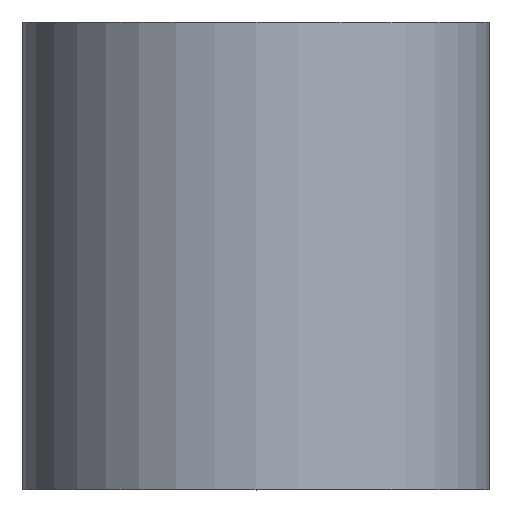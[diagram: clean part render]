
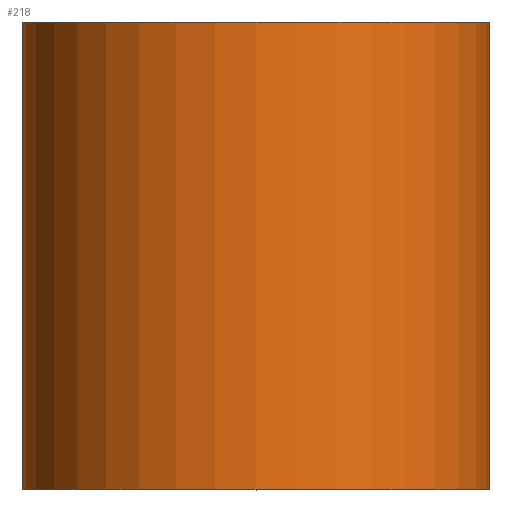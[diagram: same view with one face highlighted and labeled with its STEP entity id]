
A CAD part, top view. The second image highlights one B-rep face of the part: STEP entity #218.
In plain terms, the highlighted cylindrical face has radius 4 mm (diameter 8 mm), a partial arc.
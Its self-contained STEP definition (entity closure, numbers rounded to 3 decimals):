
#14 = LINE ( 'NONE', #56, #21 ) ;
#21 = VECTOR ( 'NONE', #271, 1000. ) ;
#33 = EDGE_CURVE ( 'NONE', #168, #203, #252, .T. ) ;
#46 = VERTEX_POINT ( 'NONE', #211 ) ;
#50 = DIRECTION ( 'NONE',  ( 0., 1., 0. ) ) ;
#56 = CARTESIAN_POINT ( 'NONE',  ( 4., 0., 0. ) ) ;
#57 = DIRECTION ( 'NONE',  ( -1., 0., 0. ) ) ;
#72 = DIRECTION ( 'NONE',  ( -1., 0., 0. ) ) ;
#74 = CYLINDRICAL_SURFACE ( 'NONE', #220, 4. ) ;
#85 = AXIS2_PLACEMENT_3D ( 'NONE', #146, #50, #72 ) ;
#99 = CIRCLE ( 'NONE', #204, 4. ) ;
#102 = CARTESIAN_POINT ( 'NONE',  ( 4., 0., 0. ) ) ;
#106 = DIRECTION ( 'NONE',  ( 0., 1., 0. ) ) ;
#109 = DIRECTION ( 'NONE',  ( 0., 1., 0. ) ) ;
#134 = EDGE_CURVE ( 'NONE', #168, #155, #298, .T. ) ;
#140 = FACE_OUTER_BOUND ( 'NONE', #229, .T. ) ;
#141 = DIRECTION ( 'NONE',  ( 0., 1., 0. ) ) ;
#146 = CARTESIAN_POINT ( 'NONE',  ( 0., 0., 0. ) ) ;
#155 = VERTEX_POINT ( 'NONE', #102 ) ;
#168 = VERTEX_POINT ( 'NONE', #260 ) ;
#172 = DIRECTION ( 'NONE',  ( -1., 0., 0. ) ) ;
#173 = CARTESIAN_POINT ( 'NONE',  ( 0., 0., 0. ) ) ;
#179 = VECTOR ( 'NONE', #141, 1000. ) ;
#182 = ORIENTED_EDGE ( 'NONE', *, *, #258, .F. ) ;
#195 = CARTESIAN_POINT ( 'NONE',  ( -4., 8., 0. ) ) ;
#198 = CARTESIAN_POINT ( 'NONE',  ( 0., 8., 0. ) ) ;
#203 = VERTEX_POINT ( 'NONE', #195 ) ;
#204 = AXIS2_PLACEMENT_3D ( 'NONE', #198, #106, #172 ) ;
#206 = EDGE_CURVE ( 'NONE', #155, #46, #14, .T. ) ;
#211 = CARTESIAN_POINT ( 'NONE',  ( 4., 8., 0. ) ) ;
#218 = ADVANCED_FACE ( 'NONE', ( #140 ), #74, .T. ) ;
#220 = AXIS2_PLACEMENT_3D ( 'NONE', #173, #109, #57 ) ;
#226 = ORIENTED_EDGE ( 'NONE', *, *, #206, .T. ) ;
#229 = EDGE_LOOP ( 'NONE', ( #230, #226, #182, #251 ) ) ;
#230 = ORIENTED_EDGE ( 'NONE', *, *, #134, .T. ) ;
#251 = ORIENTED_EDGE ( 'NONE', *, *, #33, .F. ) ;
#252 = LINE ( 'NONE', #257, #179 ) ;
#257 = CARTESIAN_POINT ( 'NONE',  ( -4., 0., 0. ) ) ;
#258 = EDGE_CURVE ( 'NONE', #203, #46, #99, .T. ) ;
#260 = CARTESIAN_POINT ( 'NONE',  ( -4., 0., 0. ) ) ;
#271 = DIRECTION ( 'NONE',  ( 0., 1., 0. ) ) ;
#298 = CIRCLE ( 'NONE', #85, 4. ) ;
